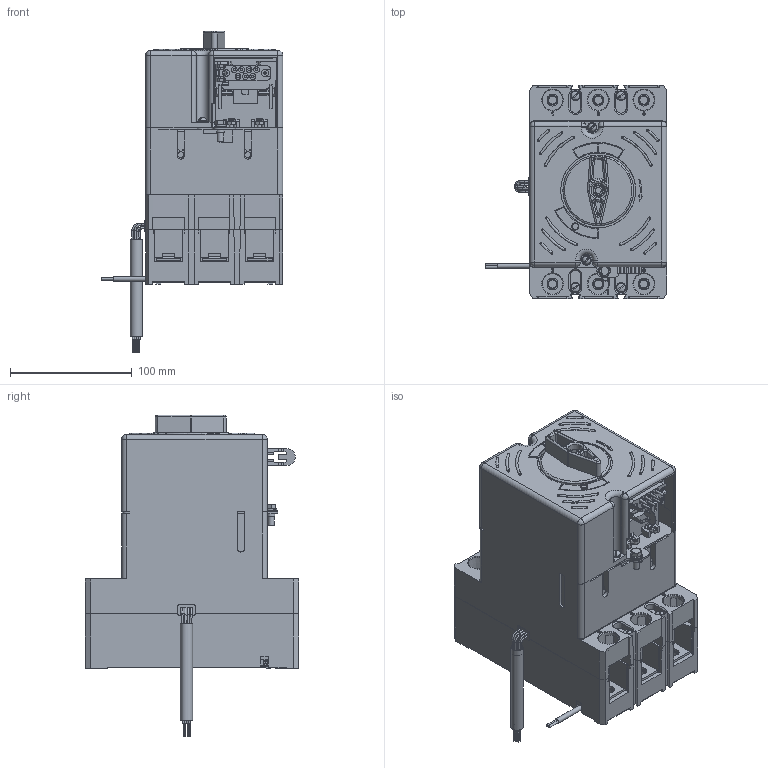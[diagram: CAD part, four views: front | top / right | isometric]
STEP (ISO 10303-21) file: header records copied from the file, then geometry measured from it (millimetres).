
FILE_DESCRIPTION (( 'STEP AP203' ), '1' );
FILE_NAME ('ÂÀ04-36 ñ ýëåêòðîïðèâîäîì_02.STEP', '2020-12-09T12:41:38', ( '' ), ( '' ), 'SwSTEP 2.0', 'SolidWorks 2018', '' );
FILE_SCHEMA (( 'CONFIG_CONTROL_DESIGN' ));
Length unit declared in the file: millimetre
Products named in the file (1): ÂÀ04-36 ñ ýëåêòðîïðèâîäîì_02
Bounding box: 148.97 x 175 x 263.96 mm (x, y, z)
Volume: 2760146.1 mm3; surface area: 245107.5 mm2
Topology: 2 solids, 9 shells, 1972 faces, 5205 edges, 3310 vertices
Faces by surface type: plane 1238, cylinder 474, bspline 108, torus 71, cone 42, sphere 39
Full cylindrical faces by diameter (mm): 0.7 x8, 1.5 x24, 2 x11, 4 x14, 4.1 x1, 4.5 x4, 4.6 x2, 4.8 x7, 4.9 x4, 5 x8, 5.2 x2, 5.8 x2, 6 x3, 6.2 x1, 6.6 x4, 6.65 x6, 7 x4, 7.2 x8, 8 x6, 8.2 x4, 8.4 x2, 10 x2, 11.778 x1, 17 x3, 18 x6, 58 x1, 61.5 x1
Entity records: 68391 total; most frequent: CARTESIAN_POINT 21149, ORIENTED_EDGE 9738, DIRECTION 9516, EDGE_CURVE 4869, LINE 3324, VECTOR 3324, VERTEX_POINT 3216, AXIS2_PLACEMENT_3D 3096
